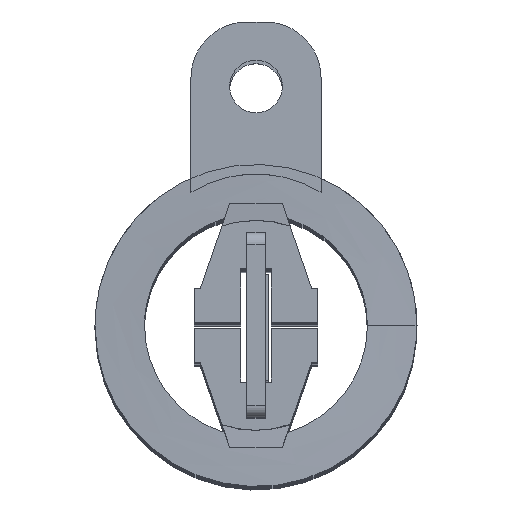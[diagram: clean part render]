
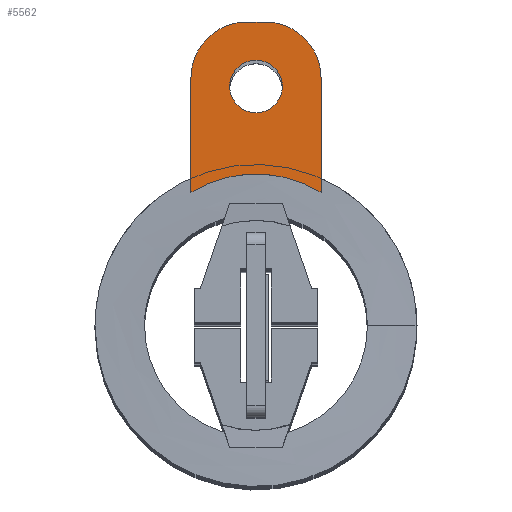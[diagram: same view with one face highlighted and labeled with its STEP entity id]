
A CAD part, top view. The second image highlights one B-rep face of the part: STEP entity #5562.
In plain terms, the highlighted planar face has unit normal (0, 0, 1).
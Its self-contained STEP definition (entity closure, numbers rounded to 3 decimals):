
#71=FACE_BOUND('',#1046,.T.);
#498=PLANE('',#6082);
#770=FACE_OUTER_BOUND('',#1045,.T.);
#1045=EDGE_LOOP('',(#4804,#4805,#4806,#4807,#4808,#4809));
#1046=EDGE_LOOP('',(#4810));
#1443=LINE('',#22425,#1842);
#1444=LINE('',#22429,#1843);
#1445=LINE('',#22432,#1844);
#1842=VECTOR('',#7247,10.);
#1843=VECTOR('',#7250,10.);
#1844=VECTOR('',#7253,10.);
#1920=CIRCLE('',#6081,20.1);
#1921=CIRCLE('',#6083,9.);
#1922=CIRCLE('',#6084,9.);
#1923=CIRCLE('',#6085,4.25);
#2445=VERTEX_POINT('',#22418);
#2446=VERTEX_POINT('',#22420);
#2447=VERTEX_POINT('',#22424);
#2448=VERTEX_POINT('',#22426);
#2449=VERTEX_POINT('',#22428);
#2450=VERTEX_POINT('',#22430);
#2451=VERTEX_POINT('',#22433);
#3233=EDGE_CURVE('',#2446,#2445,#1920,.T.);
#3235=EDGE_CURVE('',#2447,#2445,#1443,.T.);
#3236=EDGE_CURVE('',#2448,#2447,#1921,.T.);
#3237=EDGE_CURVE('',#2449,#2448,#1444,.T.);
#3238=EDGE_CURVE('',#2450,#2449,#1922,.T.);
#3239=EDGE_CURVE('',#2446,#2450,#1445,.T.);
#3240=EDGE_CURVE('',#2451,#2451,#1923,.T.);
#4804=ORIENTED_EDGE('',*,*,#3233,.T.);
#4805=ORIENTED_EDGE('',*,*,#3235,.F.);
#4806=ORIENTED_EDGE('',*,*,#3236,.F.);
#4807=ORIENTED_EDGE('',*,*,#3237,.F.);
#4808=ORIENTED_EDGE('',*,*,#3238,.F.);
#4809=ORIENTED_EDGE('',*,*,#3239,.F.);
#4810=ORIENTED_EDGE('',*,*,#3240,.T.);
#5562=ADVANCED_FACE('',(#770,#71),#498,.T.);
#6081=AXIS2_PLACEMENT_3D('',#22421,#7242,#7243);
#6082=AXIS2_PLACEMENT_3D('',#22423,#7245,#7246);
#6083=AXIS2_PLACEMENT_3D('',#22427,#7248,#7249);
#6084=AXIS2_PLACEMENT_3D('',#22431,#7251,#7252);
#6085=AXIS2_PLACEMENT_3D('',#22434,#7254,#7255);
#7242=DIRECTION('center_axis',(0.,0.,-1.));
#7243=DIRECTION('ref_axis',(1.,0.,0.));
#7245=DIRECTION('center_axis',(0.,0.,1.));
#7246=DIRECTION('ref_axis',(1.,0.,0.));
#7247=DIRECTION('',(0.,-1.,0.));
#7248=DIRECTION('center_axis',(0.,0.,-1.));
#7249=DIRECTION('ref_axis',(0.707,0.707,0.));
#7250=DIRECTION('',(1.,0.,0.));
#7251=DIRECTION('center_axis',(0.,0.,-1.));
#7252=DIRECTION('ref_axis',(-0.707,0.707,0.));
#7253=DIRECTION('',(0.,1.,0.));
#7254=DIRECTION('center_axis',(0.,0.,-1.));
#7255=DIRECTION('ref_axis',(1.,0.,0.));
#22418=CARTESIAN_POINT('',(21.,0.,2.));
#22420=CARTESIAN_POINT('',(0.,0.,2.));
#22421=CARTESIAN_POINT('Origin',(10.5,-17.139,2.));
#22423=CARTESIAN_POINT('Origin',(10.5,13.75,2.));
#22424=CARTESIAN_POINT('',(21.,18.5,2.));
#22425=CARTESIAN_POINT('',(21.,0.,2.));
#22426=CARTESIAN_POINT('',(12.,27.5,2.));
#22427=CARTESIAN_POINT('Origin',(12.,18.5,2.));
#22428=CARTESIAN_POINT('',(9.,27.5,2.));
#22429=CARTESIAN_POINT('',(21.,27.5,2.));
#22430=CARTESIAN_POINT('',(0.,18.5,2.));
#22431=CARTESIAN_POINT('Origin',(9.,18.5,2.));
#22432=CARTESIAN_POINT('',(0.,27.5,2.));
#22433=CARTESIAN_POINT('',(6.25,17.1,2.));
#22434=CARTESIAN_POINT('Origin',(10.5,17.1,2.));
